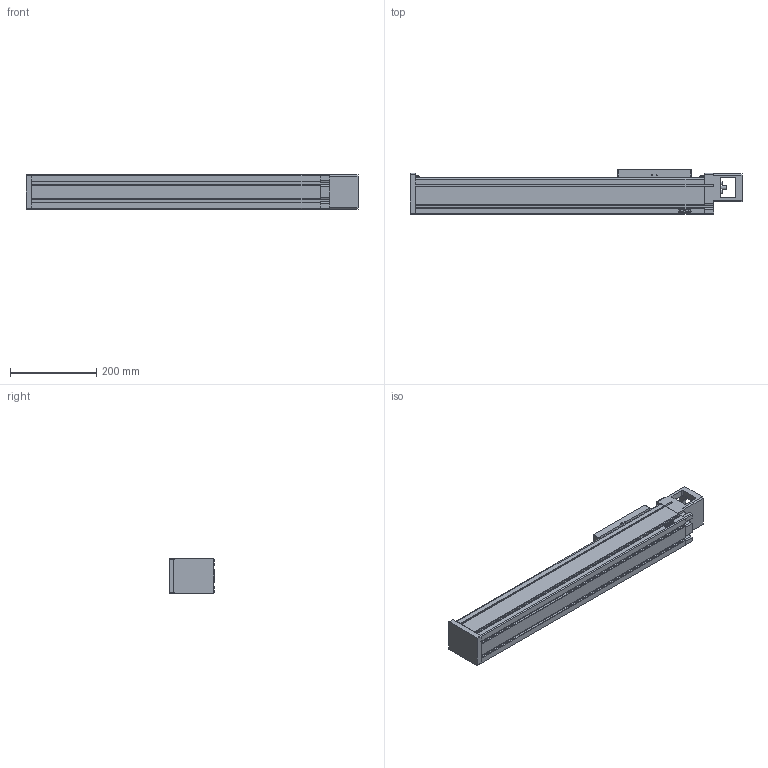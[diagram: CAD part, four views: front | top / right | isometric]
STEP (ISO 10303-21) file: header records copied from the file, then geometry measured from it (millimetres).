
FILE_DESCRIPTION(/* description */ (''),/* implementation_level */ '2;1');
FILE_NAME(/* name */ 'D:\混合母檔20191031\混和母檔\混和母檔\bin\Debug\Download\3D\KU80-10C-450AF0\KU80-10C-450AF0.stp',/* time_stamp */ '2019-11-04T17:04:58+08:00',/* author */ ('user'),/* organization */ (''),/* preprocessor_version */ 'ST-DEVELOPER v16.13',/* originating_system */ 'Autodesk Inventor 2018',/* authorisation */ '');
FILE_SCHEMA (('AUTOMOTIVE_DESIGN { 1 0 10303 214 3 1 1 }'));
Length unit declared in the file: millimetre
Products named in the file (3): KU80-10C-450AF0; KU80-F0-BP; KU80-SL
Assembly tree (2 placements, depth 2):
  KU80-10C-450AF0
    KU80-F0-BP
    KU80-SL
Bounding box: 770 x 103 x 80 mm (x, y, z)
Volume: 4844161.6 mm3; surface area: 429418.3 mm2
Topology: 2 solids, 10 shells, 862 faces, 2315 edges, 1508 vertices
Faces by surface type: plane 509, bspline 136, cylinder 104, cone 81, torus 28, sphere 4
Full cylindrical faces by diameter (mm): 2.459 x4, 2.729 x4, 3 x4, 3.242 x4, 3.5 x4, 4.134 x16, 5 x4, 5.5 x8, 5.6 x2, 8 x1, 8.5 x4, 12 x1, 46.5 x1
Entity records: 27990 total; most frequent: CARTESIAN_POINT 7413, ORIENTED_EDGE 4362, DIRECTION 3790, EDGE_CURVE 2181, VERTEX_POINT 1469, LINE 1298, VECTOR 1298, AXIS2_PLACEMENT_3D 1246
